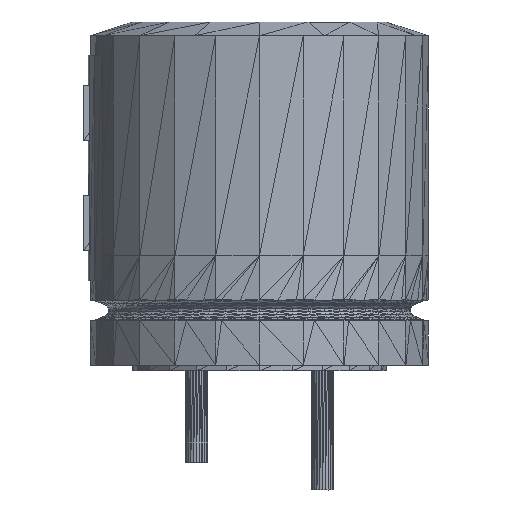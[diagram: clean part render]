
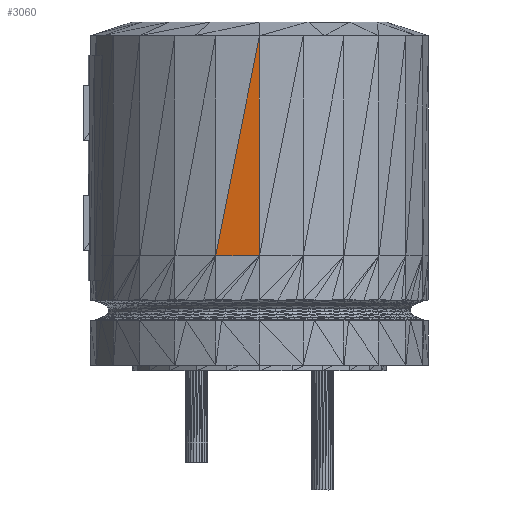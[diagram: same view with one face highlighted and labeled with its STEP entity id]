
A CAD part, front view. The second image highlights one B-rep face of the part: STEP entity #3060.
In plain terms, the highlighted planar face has unit normal (-0.131, -0.991, 0).
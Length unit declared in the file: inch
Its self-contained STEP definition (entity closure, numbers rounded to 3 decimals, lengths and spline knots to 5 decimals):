
#2276=CARTESIAN_POINT('',(0.,-0.18758,0.37168));
#2277=VERTEX_POINT('',#2276);
#3004=CARTESIAN_POINT('',(0.,-0.18753,0.12793));
#3005=VERTEX_POINT('',#3004);
#3028=CARTESIAN_POINT('',(0.,-0.18753,0.12793));
#3029=DIRECTION('',(0.,0.,1.));
#3030=VECTOR('',#3029,0.24374);
#3031=LINE('',#3028,#3030);
#3032=EDGE_CURVE('',#3005,#2277,#3031,.T.);
#3038=CARTESIAN_POINT('',(0.,-0.18758,0.37168));
#3039=DIRECTION('',(0.131,0.991,0.));
#3040=DIRECTION('',(0.991,-0.131,0.));
#3041=AXIS2_PLACEMENT_3D('',#3038,#3039,#3040);
#3042=PLANE('',#3041);
#3043=CARTESIAN_POINT('',(-0.04853,-0.18114,0.12794));
#3044=VERTEX_POINT('',#3043);
#3045=CARTESIAN_POINT('',(-0.04853,-0.18114,0.12794));
#3046=DIRECTION('',(0.195,-0.026,0.98));
#3047=VECTOR('',#3046,0.24861);
#3048=LINE('',#3045,#3047);
#3049=EDGE_CURVE('',#3044,#2277,#3048,.T.);
#3050=ORIENTED_EDGE('',*,*,#3049,.F.);
#3051=CARTESIAN_POINT('',(0.,-0.18753,0.12793));
#3052=DIRECTION('',(-0.991,0.131,0.));
#3053=VECTOR('',#3052,0.04894);
#3054=LINE('',#3051,#3053);
#3055=EDGE_CURVE('',#3005,#3044,#3054,.T.);
#3056=ORIENTED_EDGE('',*,*,#3055,.F.);
#3057=ORIENTED_EDGE('',*,*,#3032,.T.);
#3058=EDGE_LOOP('',(#3050,#3056,#3057));
#3059=FACE_BOUND('',#3058,.T.);
#3060=ADVANCED_FACE('',(#3059),#3042,.F.);
